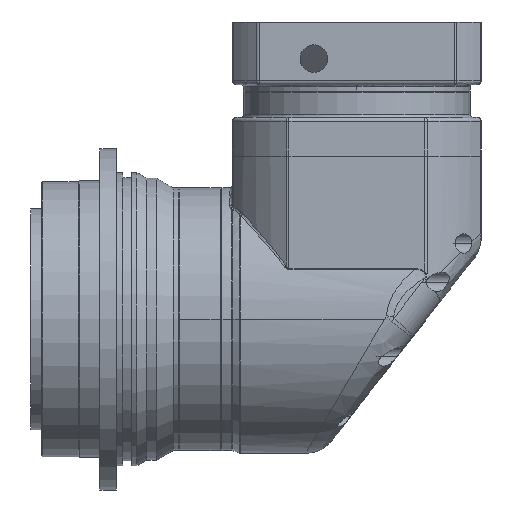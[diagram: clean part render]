
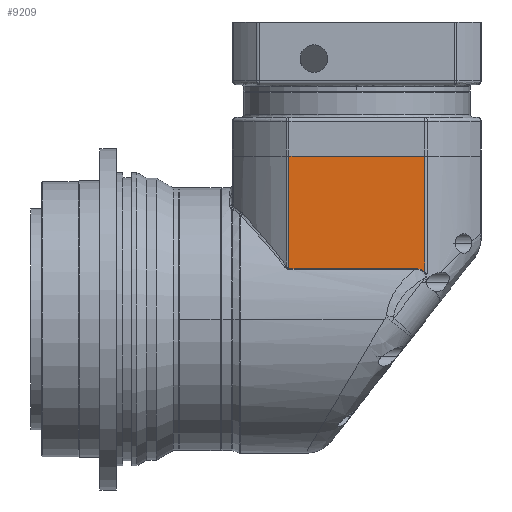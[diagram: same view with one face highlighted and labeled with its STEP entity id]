
A CAD part, left-side view. The second image highlights one B-rep face of the part: STEP entity #9209.
In plain terms, the highlighted planar face has unit normal (-1, 0, 0).
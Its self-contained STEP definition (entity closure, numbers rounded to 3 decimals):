
#697 = LINE ( 'NONE', #69315, #83087 ) ;
#2694 = DIRECTION ( 'NONE',  ( 0., 0., -1. ) ) ;
#2991 = DIRECTION ( 'NONE',  ( 1., 0., 0. ) ) ;
#3563 = EDGE_CURVE ( 'NONE', #53270, #5716, #49903, .T. ) ;
#3789 = VECTOR ( 'NONE', #43282, 1000. ) ;
#3820 = PLANE ( 'NONE',  #69811 ) ;
#4296 = CARTESIAN_POINT ( 'NONE',  ( -90., -34.601, -48.564 ) ) ;
#4369 = DIRECTION ( 'NONE',  ( 0., 0., -1. ) ) ;
#4643 = CARTESIAN_POINT ( 'NONE',  ( -90., -118., 50.09 ) ) ;
#4720 = CARTESIAN_POINT ( 'NONE',  ( -90., -118., -49.041 ) ) ;
#5716 = VERTEX_POINT ( 'NONE', #33673 ) ;
#9209 = ADVANCED_FACE ( 'NONE', ( #75604 ), #3820, .F. ) ;
#9815 = ORIENTED_EDGE ( 'NONE', *, *, #21885, .F. ) ;
#10815 = CARTESIAN_POINT ( 'NONE',  ( -90., -35.193, -47.747 ) ) ;
#11549 = CARTESIAN_POINT ( 'NONE',  ( -90., -118., -49.041 ) ) ;
#11866 = EDGE_LOOP ( 'NONE', ( #9815, #60928, #46862, #65289, #31241 ) ) ;
#12257 = VERTEX_POINT ( 'NONE', #26138 ) ;
#17395 = CARTESIAN_POINT ( 'NONE',  ( -90., -35.654, -46.853 ) ) ;
#17502 = EDGE_CURVE ( 'NONE', #53270, #12257, #58332, .T. ) ;
#21885 = EDGE_CURVE ( 'NONE', #61113, #74961, #55857, .T. ) ;
#23030 = DIRECTION ( 'NONE',  ( 0., -1., 0. ) ) ;
#24023 = CARTESIAN_POINT ( 'NONE',  ( -90., -36.002, -45.907 ) ) ;
#24799 = CARTESIAN_POINT ( 'NONE',  ( -90., -118., 49.041 ) ) ;
#26138 = CARTESIAN_POINT ( 'NONE',  ( -90., -36.565, -41.651 ) ) ;
#30483 = VECTOR ( 'NONE', #23030, 1000. ) ;
#30606 = CARTESIAN_POINT ( 'NONE',  ( -90., -36.382, -44.297 ) ) ;
#31241 = ORIENTED_EDGE ( 'NONE', *, *, #39389, .F. ) ;
#33523 = EDGE_CURVE ( 'NONE', #5716, #61113, #697, .T. ) ;
#33673 = CARTESIAN_POINT ( 'NONE',  ( -90., -118., 49.041 ) ) ;
#37119 = CARTESIAN_POINT ( 'NONE',  ( -90., -36.565, -42.32 ) ) ;
#39389 = EDGE_CURVE ( 'NONE', #74961, #12257, #42464, .T. ) ;
#41035 = VECTOR ( 'NONE', #62214, 1000. ) ;
#42464 = B_SPLINE_CURVE_WITH_KNOTS ( 'NONE', 3,
 ( #82169, #75718, #4296, #50031, #10815, #56501, #17395, #63006, #24023, #69505, #30606, #75991, #37119, #82445 ),
 .UNSPECIFIED., .F., .F.,
 ( 4, 2, 2, 2, 2, 2, 4 ),
 ( 0., 0.125, 0.25, 0.375, 0.5, 0.75, 1. ),
 .UNSPECIFIED. ) ;
#43282 = DIRECTION ( 'NONE',  ( 0., 1., 0. ) ) ;
#46862 = ORIENTED_EDGE ( 'NONE', *, *, #3563, .F. ) ;
#49903 = LINE ( 'NONE', #24799, #30483 ) ;
#50031 = CARTESIAN_POINT ( 'NONE',  ( -90., -35.012, -48.029 ) ) ;
#50501 = CARTESIAN_POINT ( 'NONE',  ( -90., -36.565, 49.041 ) ) ;
#53270 = VERTEX_POINT ( 'NONE', #50501 ) ;
#55857 = LINE ( 'NONE', #4720, #3789 ) ;
#56501 = CARTESIAN_POINT ( 'NONE',  ( -90., -35.513, -47.16 ) ) ;
#58332 = LINE ( 'NONE', #64152, #41035 ) ;
#60928 = ORIENTED_EDGE ( 'NONE', *, *, #33523, .F. ) ;
#61113 = VERTEX_POINT ( 'NONE', #11549 ) ;
#62214 = DIRECTION ( 'NONE',  ( 0., 0., -1. ) ) ;
#63006 = CARTESIAN_POINT ( 'NONE',  ( -90., -35.899, -46.224 ) ) ;
#64152 = CARTESIAN_POINT ( 'NONE',  ( -90., -36.565, 0. ) ) ;
#65289 = ORIENTED_EDGE ( 'NONE', *, *, #17502, .T. ) ;
#69315 = CARTESIAN_POINT ( 'NONE',  ( -90., -118., 50.09 ) ) ;
#69505 = CARTESIAN_POINT ( 'NONE',  ( -90., -36.266, -44.947 ) ) ;
#69811 = AXIS2_PLACEMENT_3D ( 'NONE', #4643, #2991, #2694 ) ;
#74961 = VERTEX_POINT ( 'NONE', #76602 ) ;
#75604 = FACE_OUTER_BOUND ( 'NONE', #11866, .T. ) ;
#75718 = CARTESIAN_POINT ( 'NONE',  ( -90., -34.37, -48.816 ) ) ;
#75991 = CARTESIAN_POINT ( 'NONE',  ( -90., -36.532, -42.984 ) ) ;
#76602 = CARTESIAN_POINT ( 'NONE',  ( -90., -34.118, -49.041 ) ) ;
#82169 = CARTESIAN_POINT ( 'NONE',  ( -90., -34.118, -49.041 ) ) ;
#82445 = CARTESIAN_POINT ( 'NONE',  ( -90., -36.565, -41.651 ) ) ;
#83087 = VECTOR ( 'NONE', #4369, 1000. ) ;
